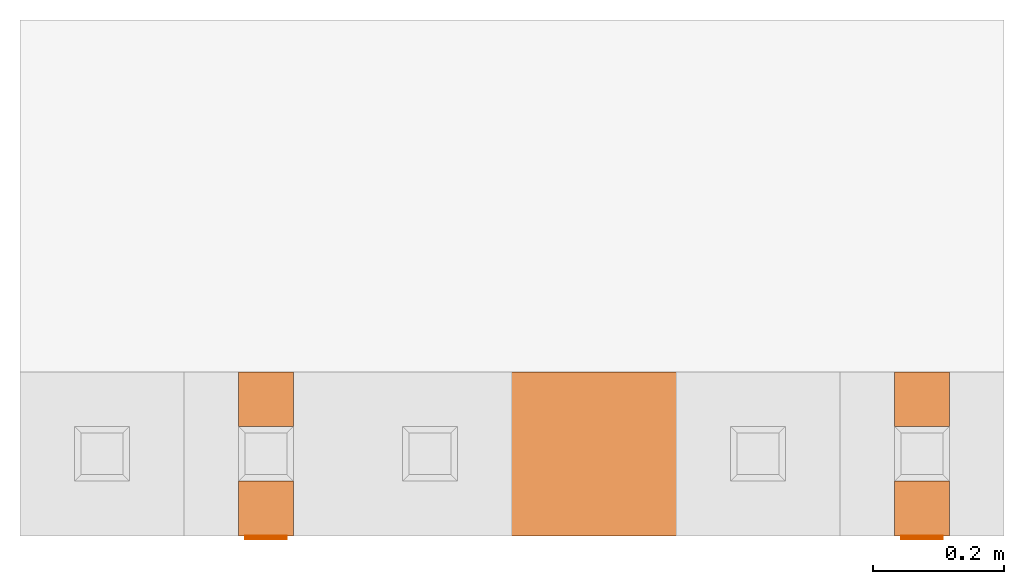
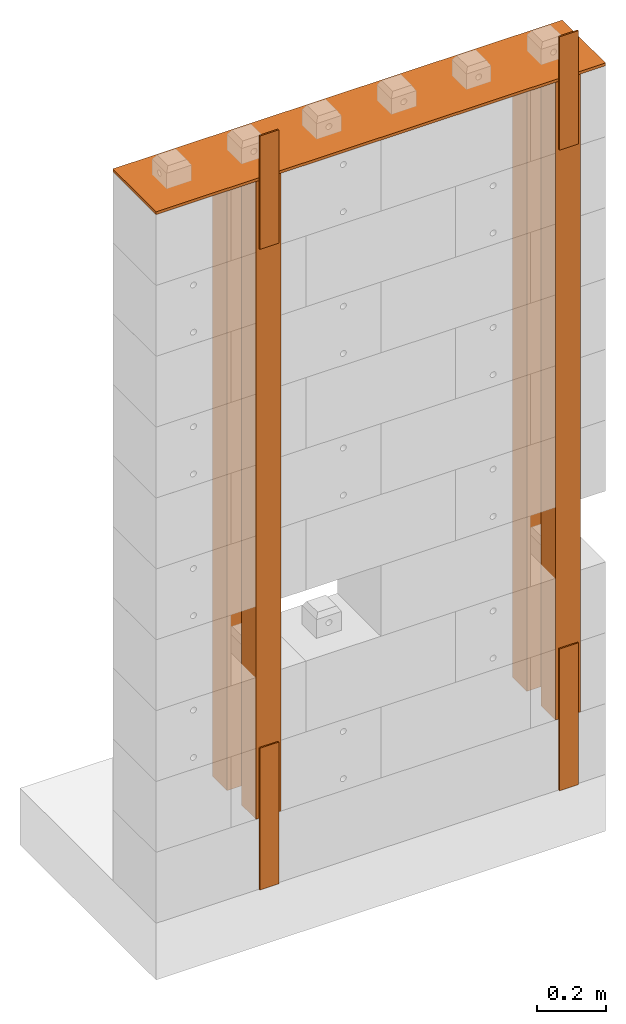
# One storey, part 2 of 2: 4 proxies.
"""IFC4 building model written with IfcOpenShell, lengths in centimetres."""

from ifc_helpers import new_model, entity, si_unit, converted_unit, direction, frame, origin, place, context, subcontext, project, spatial, indexed_curve, outline, extrude, source, transform, mapped, material, type_object, type_shapes, element, save


model = new_model("IFC4")

# Units and contexts
model_context = context("Model", 3, precision=0.001, world=origin(), true_north=direction((0.0, 1.0)))
body_context = subcontext(model_context, "Body", "Model", "MODEL_VIEW")
ifc_project = project(units=[si_unit("LENGTHUNIT", "METRE", prefix="CENTI"), si_unit("AREAUNIT", "SQUARE_METRE"), si_unit("VOLUMEUNIT", "CUBIC_METRE"), converted_unit("PLANEANGLEUNIT", "DEGREE", entity("IfcPlaneAngleMeasure", 0.017453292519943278), si_unit("PLANEANGLEUNIT", "RADIAN"), dimensions=[0, 0, 0, 0, 0, 0, 0])], contexts=[model_context])

# Site, building, storey
site_placement = place(None, origin())
site = spatial("IfcSite", under=ifc_project, at=site_placement, Name="Default", CompositionType="ELEMENT")
building_placement = place(site_placement, origin())
building = spatial("IfcBuilding", under=site, at=building_placement, CompositionType="ELEMENT")
storey_placement = place(building_placement, frame((0.0, 0.0, -12.0)))
storey = spatial("IfcBuildingStorey", under=building, at=storey_placement, Name="L00__ABOVE Slab", CompositionType="ELEMENT", Elevation=-12.000000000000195)

# Proxies
ifc_material_1 = material(Name="_STRUCTURE__Wood Solid")
building_element_proxy_type_1 = type_object("IfcBuildingElementProxyType", Name="Generic Models : Generic Models 12 : Generic Models 12", PredefinedType="NOTDEFINED", material=ifc_material_1)
shared_shape_1 = source(origin(), body_context, "Body", "SweptSolid", [
    extrude(outline(indexed_curve([(-4.166666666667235, -4.166666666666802), (4.166666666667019, -4.166666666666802), (4.166666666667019, 4.166666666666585), (-4.166666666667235, 4.166666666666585), (-4.166666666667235, -4.166666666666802)], self_intersect=False)), frame((1128.449456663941, 1209.7052064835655, 4.500000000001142), z_axis=(0.0, 0.0, 1.0), x_axis=(0.0, 1.0, 0.0)), (0.0, 0.0, 1.0), 225.00000000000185),
    extrude(outline(indexed_curve([(-4.166666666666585, -4.166666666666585), (4.166666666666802, -4.166666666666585), (4.166666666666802, 4.166666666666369), (-4.166666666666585, 4.166666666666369), (-4.166666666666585, -4.166666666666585)], self_intersect=False)), frame((1128.4494566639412, 1226.3718731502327, 4.500000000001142), z_axis=(0.0, 0.0, 1.0), x_axis=(-1.0, 0.0, 0.0)), (0.0, 0.0, 1.0), 225.00000000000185),
    extrude(outline(indexed_curve([(-4.166666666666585, -4.166666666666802), (4.166666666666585, -4.166666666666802), (4.166666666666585, 4.166666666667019), (-4.166666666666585, 4.166666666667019), (-4.166666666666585, -4.166666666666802)], self_intersect=False)), frame((1028.4494566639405, 1209.7052064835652, 4.500000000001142), z_axis=(0.0, 0.0, 1.0), x_axis=(0.0, 1.0, 0.0)), (0.0, 0.0, 1.0), 225.00000000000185),
    extrude(outline(indexed_curve([(-4.166666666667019, -4.166666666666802), (4.166666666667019, -4.166666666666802), (4.166666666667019, 4.166666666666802), (-4.166666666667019, 4.166666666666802), (-4.166666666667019, -4.166666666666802)], self_intersect=False)), frame((1028.4494566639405, 1226.3718731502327, 4.500000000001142), z_axis=(0.0, 0.0, 1.0), x_axis=(-1.0, 0.0, 0.0)), (0.0, 0.0, 1.0), 225.00000000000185),
])
type_shapes(building_element_proxy_type_1, [shared_shape_1])
proxy_1_placement = place(storey_placement, frame((0.0, 0.0, 12.0)))
element("IfcBuildingElementProxy", 1, at=proxy_1_placement, inside=storey, type_object=building_element_proxy_type_1, material=ifc_material_1, Name="Generic Models : Generic Models 12 : Generic Models 12", PredefinedType="NOTDEFINED", context=body_context, shape_type="MappedRepresentation", body=[
    mapped(shared_shape_1, transform((0.0, 0.0, 0.0), scale=1.0)),
])
building_element_proxy_type_2 = type_object("IfcBuildingElementProxyType", Name="Generic Models : Generic Models 13 : Generic Models 12", PredefinedType="NOTDEFINED", material=ifc_material_1)
shared_shape_2 = source(origin(), body_context, "Body", "SweptSolid", [
    extrude(outline(indexed_curve([(-12.499999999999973, -74.99999999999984), (12.50000000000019, -74.99999999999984), (12.50000000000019, 74.99999999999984), (-12.499999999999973, 74.99999999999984), (-12.499999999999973, -74.99999999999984)], self_intersect=False)), frame((1065.9494566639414, 1218.0385398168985, 229.50000000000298), z_axis=(0.0, 0.0, 1.0), x_axis=(0.0, 1.0, 0.0)), (0.0, 0.0, 1.0), 1.0000000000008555),
])
type_shapes(building_element_proxy_type_2, [shared_shape_2])
proxy_2_placement = place(storey_placement, frame((0.0, 0.0, 12.0)))
element("IfcBuildingElementProxy", 2, at=proxy_2_placement, inside=storey, type_object=building_element_proxy_type_2, material=ifc_material_1, Name="Generic Models : Generic Models 13 : Generic Models 12", PredefinedType="NOTDEFINED", context=body_context, shape_type="MappedRepresentation", body=[
    mapped(shared_shape_2, transform((0.0, 0.0, 0.0), scale=1.0)),
])
ifc_material_2 = material(Name="_PB STUDS & ANC__MTL Studs")
building_element_proxy_type_3 = type_object("IfcBuildingElementProxyType", Name="Generic Models : Generic Models 14 : Generic Models 12", PredefinedType="NOTDEFINED", material=ifc_material_2)
shared_shape_3 = source(origin(), body_context, "Body", "SweptSolid", [
    extrude(outline(indexed_curve([(-0.2500000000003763, -3.1666666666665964), (0.2500000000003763, -3.1666666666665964), (0.2500000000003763, 3.166666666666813), (-0.2500000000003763, 3.166666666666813), (-0.2500000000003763, -3.1666666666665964)], self_intersect=False)), frame((1128.4494566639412, 1205.2885398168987, -20.49999999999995), z_axis=(0.0, 0.0, 1.0), x_axis=(0.0, 1.0, 0.0)), (0.0, 0.0, 1.0), 50.00000000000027),
    extrude(outline(indexed_curve([(-0.25000000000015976, -3.1666666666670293), (0.25000000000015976, -3.1666666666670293), (0.25000000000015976, 3.166666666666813), (-0.25000000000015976, 3.166666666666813), (-0.25000000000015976, -3.1666666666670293)], self_intersect=False)), frame((1028.4494566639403, 1205.288539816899, -20.49999999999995), z_axis=(0.0, 0.0, 1.0), x_axis=(0.0, 1.0, 0.0)), (0.0, 0.0, 1.0), 50.00000000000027),
])
type_shapes(building_element_proxy_type_3, [shared_shape_3])
proxy_3_placement = place(storey_placement, frame((0.0, 0.0, 12.0)))
element("IfcBuildingElementProxy", 3, at=proxy_3_placement, inside=storey, type_object=building_element_proxy_type_3, material=ifc_material_2, Name="Generic Models : Generic Models 14 : Generic Models 12", PredefinedType="NOTDEFINED", context=body_context, shape_type="MappedRepresentation", body=[
    mapped(shared_shape_3, transform((0.0, 0.0, 0.0), scale=1.0)),
])
building_element_proxy_type_4 = type_object("IfcBuildingElementProxyType", Name="Generic Models : Generic Models 15 : Generic Models 12", PredefinedType="NOTDEFINED", material=ifc_material_2)
shared_shape_4 = source(origin(), body_context, "Body", "SweptSolid", [
    extrude(outline(indexed_curve([(-0.2500000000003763, -3.1666666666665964), (0.2500000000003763, -3.1666666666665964), (0.2500000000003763, 3.166666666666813), (-0.2500000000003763, 3.166666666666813), (-0.2500000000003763, -3.1666666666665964)], self_intersect=False)), frame((1128.4494566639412, 1205.2885398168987, -35.49999999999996), z_axis=(0.0, 0.0, 1.0), x_axis=(0.0, 1.0, 0.0)), (0.0, 0.0, 1.0), 40.00000000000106),
    extrude(outline(indexed_curve([(-0.25000000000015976, -3.1666666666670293), (0.25000000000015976, -3.1666666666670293), (0.25000000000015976, 3.166666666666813), (-0.25000000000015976, 3.166666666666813), (-0.25000000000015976, -3.1666666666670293)], self_intersect=False)), frame((1028.4494566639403, 1205.288539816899, -35.49999999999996), z_axis=(0.0, 0.0, 1.0), x_axis=(0.0, 1.0, 0.0)), (0.0, 0.0, 1.0), 40.00000000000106),
])
type_shapes(building_element_proxy_type_4, [shared_shape_4])
proxy_4_placement = place(storey_placement, frame((0.0, 0.0, 253.0)))
element("IfcBuildingElementProxy", 4, at=proxy_4_placement, inside=storey, type_object=building_element_proxy_type_4, material=ifc_material_2, Name="Generic Models : Generic Models 15 : Generic Models 12", PredefinedType="NOTDEFINED", context=body_context, shape_type="MappedRepresentation", body=[
    mapped(shared_shape_4, transform((0.0, 0.0, 0.0), scale=1.0)),
])

save(model, "model.ifc")
